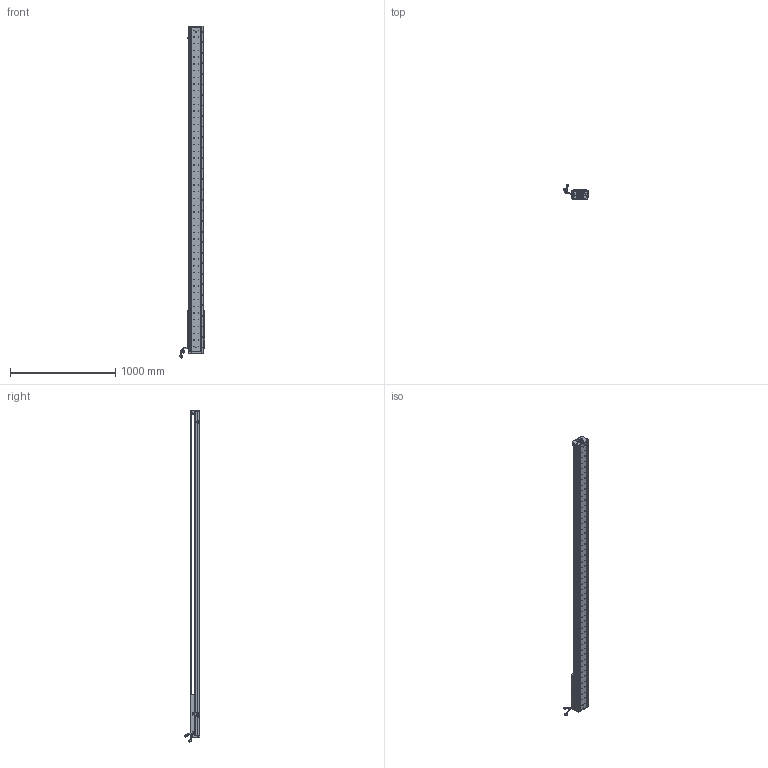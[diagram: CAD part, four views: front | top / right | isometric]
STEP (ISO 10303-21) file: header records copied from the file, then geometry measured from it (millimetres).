
FILE_DESCRIPTION (( 'STEP AP203' ), '1' );
FILE_NAME ('Z5-RY140D-1-L500-B-K.SLDASM_2650.step', '2021-05-17T08:41:05', ( '盈信电脑' ), ( '东莞市道滘镇水果街19号' ), 'SwSTEP 2.0', 'SolidWorks 2016', '' );
FILE_SCHEMA (( 'CONFIG_CONTROL_DESIGN' ));
Length unit declared in the file: millimetre
Products named in the file (36): SCREW-M1.7; 榋妏寠巭燃_暯_M2_2; SEAL; SCREW-M1.6-3; PSLH080_PSLF2; COVER; Z5-RY140-L500直线电机模组底座_2650; 覜茼ん672; Z5-RY140-L500詩湍100mm遵_2650; SCREW-M1.6-2; LABEL-Part-1; 詩湍奻揤裔; SCALE-Part-2; SHIELDPLATE; SCALE-Part-1; Z-140詩湍傷裔啣; Z5-RY140圉猾敕臏賑輸(21遴); 140雄赽晤鎢ん堤盄; 140蚥薯蝶輸; SCREW-M1.6; 140-Z-臏賑輸盄裔(21遴); Z-RY140感应器672光电感应片; SCREW-M1.7-1; COVER-Part-1; LABEL; PBU_SHEET; HARNESS; HOLDER0; 詩湍狟揤裔; SCALE; HARNESS-Part-2; SCREW-M1.6-1; Z5-RY140D-1-L500-B-K.SLDASM_2650; 080黍杅芛假蚾釱21遴; HARNESS-Part-1; SEAL-Part-1
Assembly tree (41 placements, depth 4):
  Z5-RY140D-1-L500-B-K.SLDASM_2650
    Z5-RY140-L500直线电机模组底座_2650
    Z-RY140感应器672光电感应片
    Z5-RY140圉猾敕臏賑輸(21遴)
    覜茼ん672  x3
    Z5-RY140-L500詩湍100mm遵_2650
    PSLH080_PSLF2
      SCALE
        SCALE-Part-1
        SCALE-Part-2
      HARNESS
        HARNESS-Part-1
        HARNESS-Part-2
      LABEL
        LABEL-Part-1
      COVER
        COVER-Part-1
      SEAL
        SEAL-Part-1
      榋妏寠巭燃_暯_M2_2
      SHIELDPLATE
      SCREW-M1.7
      SCREW-M1.7-1
      PBU_SHEET
      SCREW-M1.6
      SCREW-M1.6-1
      SCREW-M1.6-2
      SCREW-M1.6-3
      HOLDER0
    080黍杅芛假蚾釱21遴
    140-Z-臏賑輸盄裔(21遴)
    Z-140詩湍傷裔啣  x2
    詩湍狟揤裔  x2
    詩湍奻揤裔  x2
    140蚥薯蝶輸  x2
    140雄赽晤鎢ん堤盄
Bounding box: 239.79 x 143.88 x 3155.87 mm (x, y, z)
Volume: 10321426.8 mm3; surface area: 2653806.3 mm2
Topology: 36 solids, 36 shells, 4550 faces, 12450 edges, 7891 vertices
Faces by surface type: cylinder 2540, plane 1450, cone 438, torus 69, bspline 53
Entity records: 146674 total; most frequent: CARTESIAN_POINT 42055, ORIENTED_EDGE 21748, DIRECTION 19962, EDGE_CURVE 10874, AXIS2_PLACEMENT_3D 7462, VERTEX_POINT 7059, VECTOR 5038, LINE 5038
